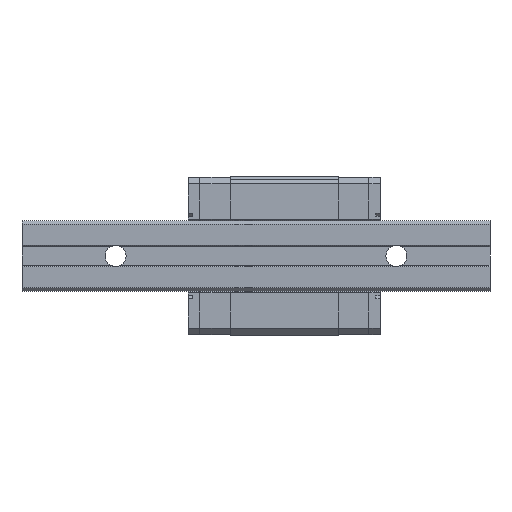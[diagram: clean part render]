
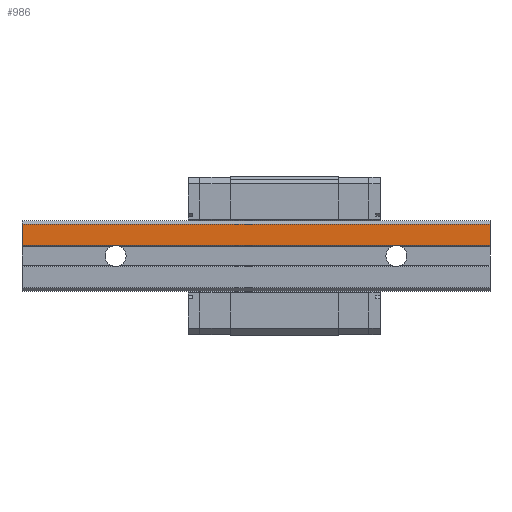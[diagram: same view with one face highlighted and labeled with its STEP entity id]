
A CAD part, front view. The second image highlights one B-rep face of the part: STEP entity #986.
In plain terms, the highlighted planar face has unit normal (0, -1, 0).
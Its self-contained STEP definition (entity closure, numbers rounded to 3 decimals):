
#986 = ADVANCED_FACE( '', ( #2114 ), #2115, .F. );
#2114 = FACE_OUTER_BOUND( '', #3457, .T. );
#2115 = PLANE( '', #3458 );
#3457 = EDGE_LOOP( '', ( #5911, #5912, #5913, #5914 ) );
#3458 = AXIS2_PLACEMENT_3D( '', #5915, #5916, #5917 );
#5911 = ORIENTED_EDGE( '', *, *, #9070, .T. );
#5912 = ORIENTED_EDGE( '', *, *, #8235, .F. );
#5913 = ORIENTED_EDGE( '', *, *, #8374, .F. );
#5914 = ORIENTED_EDGE( '', *, *, #9071, .T. );
#5915 = CARTESIAN_POINT( '', ( 50., 0., 6.8 ) );
#5916 = DIRECTION( '', ( 0., 1., 0. ) );
#5917 = DIRECTION( '', ( 0., 0., 1. ) );
#8235 = EDGE_CURVE( '', #9856, #9858, #9859, .T. );
#8374 = EDGE_CURVE( '', #10097, #9856, #10099, .T. );
#9070 = EDGE_CURVE( '', #11224, #9858, #11225, .T. );
#9071 = EDGE_CURVE( '', #10097, #11224, #11226, .T. );
#9856 = VERTEX_POINT( '', #12212 );
#9858 = VERTEX_POINT( '', #12215 );
#9859 = LINE( '', #12216, #12217 );
#10097 = VERTEX_POINT( '', #12551 );
#10099 = LINE( '', #12554, #12555 );
#11224 = VERTEX_POINT( '', #14180 );
#11225 = LINE( '', #14181, #14182 );
#11226 = LINE( '', #14183, #14184 );
#12212 = CARTESIAN_POINT( '', ( 50., 0., 2.3 ) );
#12215 = CARTESIAN_POINT( '', ( -50., 0., 2.3 ) );
#12216 = CARTESIAN_POINT( '', ( 50., 0., 2.3 ) );
#12217 = VECTOR( '', #15299, 1000. );
#12551 = CARTESIAN_POINT( '', ( 50., 0., 6.8 ) );
#12554 = CARTESIAN_POINT( '', ( 50., 0., 6.8 ) );
#12555 = VECTOR( '', #15454, 1000. );
#14180 = CARTESIAN_POINT( '', ( -50., 0., 6.8 ) );
#14181 = CARTESIAN_POINT( '', ( -50., 0., 6.8 ) );
#14182 = VECTOR( '', #16166, 1000. );
#14183 = CARTESIAN_POINT( '', ( 50., 0., 6.8 ) );
#14184 = VECTOR( '', #16167, 1000. );
#15299 = DIRECTION( '', ( -1., 0., 0. ) );
#15454 = DIRECTION( '', ( 0., 0., -1. ) );
#16166 = DIRECTION( '', ( 0., 0., -1. ) );
#16167 = DIRECTION( '', ( -1., 0., 0. ) );
